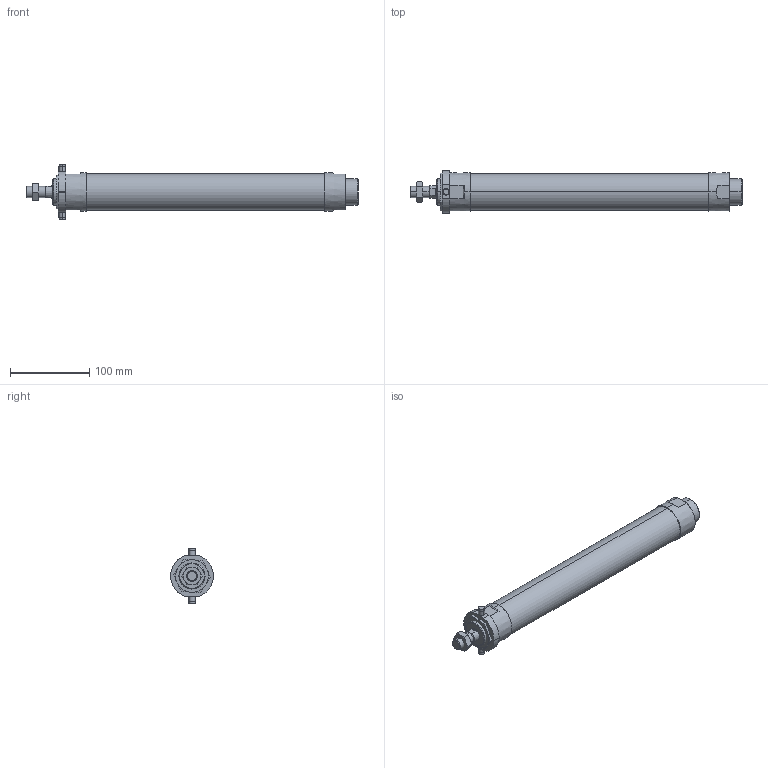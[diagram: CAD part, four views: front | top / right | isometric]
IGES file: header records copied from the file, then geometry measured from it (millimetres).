
Start section: SolidWorks IGES file using analytic representation for surfaces
Global section: file name: C:\Users\Toshiba\Desktop\J#2-40-250-T.IGS; native system: SolidWorks 2014; preprocessor: SolidWorks 2014; author: Toshiba; date: 160308.160838; units: millimetre
Bounding box: 419 x 54 x 70 mm (x, y, z)
Surface area: 70399.7 mm2 (no closed solid volume)
Topology: 0 solids, 0 shells, 121 faces, 2282 edges, 2278 vertices
Faces by surface type: bspline 63, revolution 58
